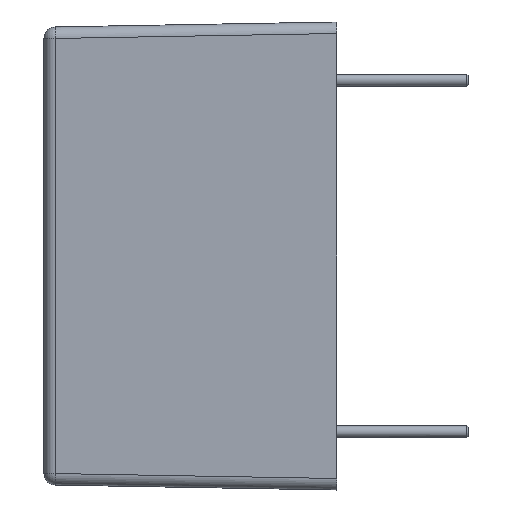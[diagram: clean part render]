
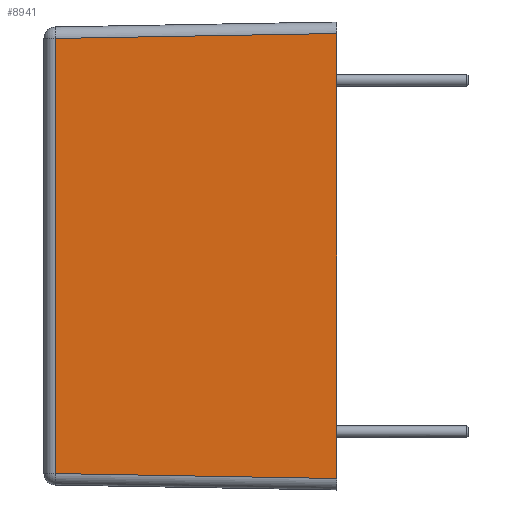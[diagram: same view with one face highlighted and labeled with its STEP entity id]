
A CAD part, left-side view. The second image highlights one B-rep face of the part: STEP entity #8941.
In plain terms, the highlighted planar face has unit normal (-1, 0.018, 0) as drawn and (-1, -0.017, 0) by its records, which use the part's own axes.
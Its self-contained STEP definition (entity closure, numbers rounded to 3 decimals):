
#153 = VERTEX_POINT ( 'NONE', #20390 ) ;
#292 = LINE ( 'NONE', #12181, #6657 ) ;
#1078 = ORIENTED_EDGE ( 'NONE', *, *, #9306, .F. ) ;
#1105 = FACE_OUTER_BOUND ( 'NONE', #15282, .T. ) ;
#1132 = EDGE_CURVE ( 'NONE', #3755, #153, #18972, .T. ) ;
#2359 = PLANE ( 'NONE',  #16149 ) ;
#3755 = VERTEX_POINT ( 'NONE', #19331 ) ;
#4215 = DIRECTION ( 'NONE',  ( 0.017, -1., 0. ) ) ;
#4799 = ORIENTED_EDGE ( 'NONE', *, *, #8129, .T. ) ;
#4893 = DIRECTION ( 'NONE',  ( 0.017, -1., 0.017 ) ) ;
#5650 = VECTOR ( 'NONE', #6522, 1000. ) ;
#5945 = VERTEX_POINT ( 'NONE', #19962 ) ;
#6522 = DIRECTION ( 'NONE',  ( 0., 0., 1. ) ) ;
#6657 = VECTOR ( 'NONE', #18929, 1000. ) ;
#6831 = VERTEX_POINT ( 'NONE', #12689 ) ;
#7419 = CARTESIAN_POINT ( 'NONE',  ( -15.894, -0.345, 9.644 ) ) ;
#8129 = EDGE_CURVE ( 'NONE', #153, #6831, #17101, .T. ) ;
#8890 = LINE ( 'NONE', #13346, #18241 ) ;
#8941 = ADVANCED_FACE ( 'NONE', ( #1105 ), #2359, .T. ) ;
#9306 = EDGE_CURVE ( 'NONE', #5945, #6831, #292, .T. ) ;
#10223 = CARTESIAN_POINT ( 'NONE',  ( -15.687, -12.209, 9.428 ) ) ;
#12181 = CARTESIAN_POINT ( 'NONE',  ( -15.9, 0., -10.15 ) ) ;
#12689 = CARTESIAN_POINT ( 'NONE',  ( -15.9, 0., 9.65 ) ) ;
#13346 = CARTESIAN_POINT ( 'NONE',  ( -15.9, 0.009, -9.65 ) ) ;
#14904 = EDGE_CURVE ( 'NONE', #5945, #3755, #8890, .T. ) ;
#15282 = EDGE_LOOP ( 'NONE', ( #20886, #15570, #4799, #1078 ) ) ;
#15570 = ORIENTED_EDGE ( 'NONE', *, *, #1132, .T. ) ;
#15974 = DIRECTION ( 'NONE',  ( -0.017, 1., 0.017 ) ) ;
#16149 = AXIS2_PLACEMENT_3D ( 'NONE', #19481, #17626, #4215 ) ;
#17101 = LINE ( 'NONE', #7419, #21117 ) ;
#17626 = DIRECTION ( 'NONE',  ( -1., -0.017, 0. ) ) ;
#18241 = VECTOR ( 'NONE', #4893, 1000. ) ;
#18929 = DIRECTION ( 'NONE',  ( 0., 0., 1. ) ) ;
#18972 = LINE ( 'NONE', #10223, #5650 ) ;
#19331 = CARTESIAN_POINT ( 'NONE',  ( -15.687, -12.209, -9.437 ) ) ;
#19481 = CARTESIAN_POINT ( 'NONE',  ( -15.9, 0., -10.15 ) ) ;
#19962 = CARTESIAN_POINT ( 'NONE',  ( -15.9, 0., -9.65 ) ) ;
#20390 = CARTESIAN_POINT ( 'NONE',  ( -15.687, -12.209, 9.437 ) ) ;
#20886 = ORIENTED_EDGE ( 'NONE', *, *, #14904, .T. ) ;
#21117 = VECTOR ( 'NONE', #15974, 1000. ) ;
